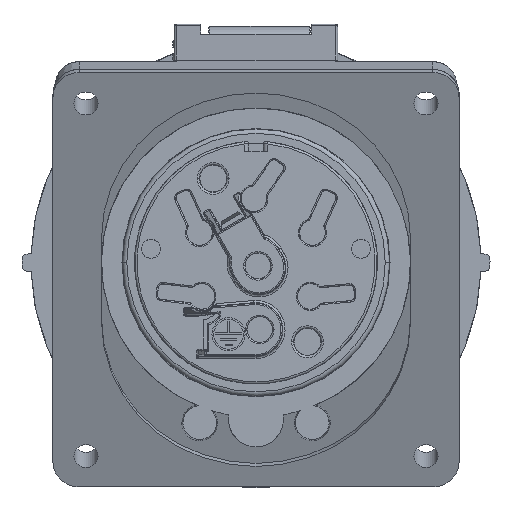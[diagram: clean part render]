
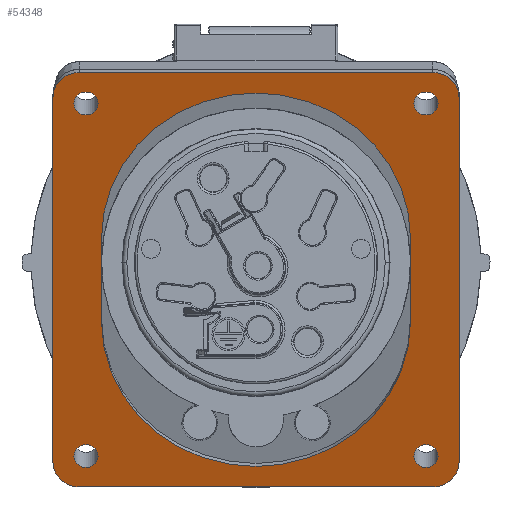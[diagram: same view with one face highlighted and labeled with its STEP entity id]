
A CAD part, front view. The second image highlights one B-rep face of the part: STEP entity #54348.
In plain terms, the highlighted planar face has unit normal (0, -0.94, -0.342).
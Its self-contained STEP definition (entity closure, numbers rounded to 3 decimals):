
#8228=CARTESIAN_POINT('',(-40.,44.315,-45.178));
#8229=DIRECTION('',(0.,0.94,0.342));
#8230=DIRECTION('',(0.,0.342,-0.94));
#8231=AXIS2_PLACEMENT_3D('',#8228,#8229,#8230);
#8236=DIRECTION('',(0.,-0.342,0.94));
#8237=VECTOR('',#8236,87.9);
#8238=CARTESIAN_POINT('',(-46.,44.315,-45.178));
#8239=LINE('6181',#8238,#8237);
#8243=CARTESIAN_POINT('',(-40.,14.252,37.42));
#8244=DIRECTION('',(0.,0.94,0.342));
#8245=DIRECTION('',(-1.,0.,0.));
#8246=AXIS2_PLACEMENT_3D('',#8243,#8244,#8245);
#8251=DIRECTION('',(1.,0.,0.));
#8252=VECTOR('',#8251,80.);
#8253=CARTESIAN_POINT('',(-40.,12.2,43.059));
#8254=LINE('6183',#8253,#8252);
#8258=CARTESIAN_POINT('',(40.,14.252,37.42));
#8259=DIRECTION('',(0.,0.94,0.342));
#8260=DIRECTION('',(0.,-0.342,0.94));
#8261=AXIS2_PLACEMENT_3D('',#8258,#8259,#8260);
#8266=DIRECTION('',(0.,0.342,-0.94));
#8267=VECTOR('',#8266,87.9);
#8268=CARTESIAN_POINT('',(46.,14.252,37.42));
#8269=LINE('6185',#8268,#8267);
#8273=CARTESIAN_POINT('',(40.,44.315,-45.178));
#8274=DIRECTION('',(0.,0.94,0.342));
#8275=DIRECTION('',(1.,0.,0.));
#8276=AXIS2_PLACEMENT_3D('',#8273,#8274,#8275);
#8281=DIRECTION('',(-1.,0.,0.));
#8282=VECTOR('',#8281,80.);
#8283=CARTESIAN_POINT('',(40.,46.367,-50.817));
#8284=LINE('6187',#8283,#8282);
#8288=CARTESIAN_POINT('',(-38.5,43.819,-43.816));
#8289=DIRECTION('',(0.,-0.94,-0.342));
#8290=DIRECTION('',(1.,0.,0.));
#8291=AXIS2_PLACEMENT_3D('',#8288,#8289,#8290);
#8296=CARTESIAN_POINT('',(-38.5,43.819,-43.816));
#8297=DIRECTION('',(0.,-0.94,-0.342));
#8298=DIRECTION('',(-1.,0.,0.));
#8299=AXIS2_PLACEMENT_3D('',#8296,#8297,#8298);
#8304=CARTESIAN_POINT('',(38.5,43.819,-43.816));
#8305=DIRECTION('',(0.,-0.94,-0.342));
#8306=DIRECTION('',(1.,0.,0.));
#8307=AXIS2_PLACEMENT_3D('',#8304,#8305,#8306);
#8312=CARTESIAN_POINT('',(38.5,43.819,-43.816));
#8313=DIRECTION('',(0.,-0.94,-0.342));
#8314=DIRECTION('',(-1.,0.,0.));
#8315=AXIS2_PLACEMENT_3D('',#8312,#8313,#8314);
#8320=CARTESIAN_POINT('',(38.5,14.748,36.058));
#8321=DIRECTION('',(0.,-0.94,-0.342));
#8322=DIRECTION('',(1.,0.,0.));
#8323=AXIS2_PLACEMENT_3D('',#8320,#8321,#8322);
#8328=CARTESIAN_POINT('',(38.5,14.748,36.058));
#8329=DIRECTION('',(0.,-0.94,-0.342));
#8330=DIRECTION('',(-1.,0.,0.));
#8331=AXIS2_PLACEMENT_3D('',#8328,#8329,#8330);
#8336=CARTESIAN_POINT('',(-38.5,14.748,36.058));
#8337=DIRECTION('',(0.,-0.94,-0.342));
#8338=DIRECTION('',(1.,0.,0.));
#8339=AXIS2_PLACEMENT_3D('',#8336,#8337,#8338);
#8344=CARTESIAN_POINT('',(-38.5,14.748,36.058));
#8345=DIRECTION('',(0.,-0.94,-0.342));
#8346=DIRECTION('',(-1.,0.,0.));
#8347=AXIS2_PLACEMENT_3D('',#8344,#8345,#8346);
#8352=CARTESIAN_POINT('',(0.,32.704,-13.276));
#8353=DIRECTION('',(0.,-0.94,-0.342));
#8354=DIRECTION('',(-1.,0.,0.));
#8355=AXIS2_PLACEMENT_3D('',#8352,#8353,#8354);
#8360=DIRECTION('',(0.,-0.342,0.94));
#8361=VECTOR('',#8360,20.);
#8362=CARTESIAN_POINT('',(35.,32.704,-13.276));
#8363=LINE('6189',#8362,#8361);
#8367=CARTESIAN_POINT('',(0.,25.863,5.518));
#8368=DIRECTION('',(0.,-0.94,-0.342));
#8369=DIRECTION('',(1.,0.,0.));
#8370=AXIS2_PLACEMENT_3D('',#8367,#8368,#8369);
#8375=DIRECTION('',(0.,0.342,-0.94));
#8376=VECTOR('',#8375,20.);
#8377=CARTESIAN_POINT('',(-35.,25.863,5.518));
#8378=LINE('6191',#8377,#8376);
#41865=CARTESIAN_POINT('',(-35.75,43.819,-43.816));
#41866=CARTESIAN_POINT('',(-41.25,43.819,-43.816));
#41867=VERTEX_POINT('',#41865);
#41868=VERTEX_POINT('',#41866);
#41869=CARTESIAN_POINT('',(41.25,43.819,-43.816));
#41870=CARTESIAN_POINT('',(35.75,43.819,-43.816));
#41871=VERTEX_POINT('',#41869);
#41872=VERTEX_POINT('',#41870);
#41873=CARTESIAN_POINT('',(41.25,14.748,36.058));
#41874=CARTESIAN_POINT('',(35.75,14.748,36.058));
#41875=VERTEX_POINT('',#41873);
#41876=VERTEX_POINT('',#41874);
#41877=CARTESIAN_POINT('',(-35.75,14.748,36.058));
#41878=CARTESIAN_POINT('',(-41.25,14.748,36.058));
#41879=VERTEX_POINT('',#41877);
#41880=VERTEX_POINT('',#41878);
#41881=CARTESIAN_POINT('',(-40.,46.367,-50.817));
#41882=CARTESIAN_POINT('',(-46.,44.315,-45.178));
#41883=VERTEX_POINT('',#41881);
#41884=VERTEX_POINT('',#41882);
#41885=CARTESIAN_POINT('',(-46.,14.252,37.42));
#41886=VERTEX_POINT('',#41885);
#41887=CARTESIAN_POINT('',(-40.,12.2,43.059));
#41888=VERTEX_POINT('',#41887);
#41889=CARTESIAN_POINT('',(40.,12.2,43.059));
#41890=VERTEX_POINT('',#41889);
#41891=CARTESIAN_POINT('',(46.,14.252,37.42));
#41892=VERTEX_POINT('',#41891);
#41893=CARTESIAN_POINT('',(46.,44.315,-45.178));
#41894=VERTEX_POINT('',#41893);
#41895=CARTESIAN_POINT('',(40.,46.367,-50.817));
#41896=VERTEX_POINT('',#41895);
#41897=CARTESIAN_POINT('',(-35.,32.704,-13.276));
#41898=CARTESIAN_POINT('',(35.,32.704,-13.276));
#41899=VERTEX_POINT('',#41897);
#41900=VERTEX_POINT('',#41898);
#41901=CARTESIAN_POINT('',(35.,25.863,5.518));
#41902=VERTEX_POINT('',#41901);
#41903=CARTESIAN_POINT('',(-35.,25.863,5.518));
#41904=VERTEX_POINT('',#41903);
#54295=CARTESIAN_POINT('',(0.,29.283,-3.879));
#54296=DIRECTION('',(0.,0.94,0.342));
#54297=DIRECTION('',(1.,0.,0.));
#54298=AXIS2_PLACEMENT_3D('',#54295,#54296,#54297);
#54299=PLANE('1891',#54298);
#54300=ORIENTED_EDGE('6180',*,*,#41998,.T.);
#54302=ORIENTED_EDGE('6181',*,*,#54301,.T.);
#54303=ORIENTED_EDGE('6182',*,*,#54251,.T.);
#54304=ORIENTED_EDGE('6183',*,*,#54277,.T.);
#54305=ORIENTED_EDGE('6184',*,*,#54204,.T.);
#54307=ORIENTED_EDGE('6185',*,*,#54306,.T.);
#54309=ORIENTED_EDGE('6186',*,*,#54308,.T.);
#54311=ORIENTED_EDGE('6187',*,*,#54310,.T.);
#54312=EDGE_LOOP('1891',(#54300,#54302,#54303,#54304,#54305,#54307,#54309,
#54311));
#54313=FACE_OUTER_BOUND('1891',#54312,.F.);
#54315=ORIENTED_EDGE('6172',*,*,#54314,.T.);
#54317=ORIENTED_EDGE('6173',*,*,#54316,.T.);
#54318=EDGE_LOOP('1891',(#54315,#54317));
#54319=FACE_BOUND('1891',#54318,.F.);
#54321=ORIENTED_EDGE('6174',*,*,#54320,.T.);
#54323=ORIENTED_EDGE('6175',*,*,#54322,.T.);
#54324=EDGE_LOOP('1891',(#54321,#54323));
#54325=FACE_BOUND('1891',#54324,.F.);
#54327=ORIENTED_EDGE('6176',*,*,#54326,.T.);
#54329=ORIENTED_EDGE('6177',*,*,#54328,.T.);
#54330=EDGE_LOOP('1891',(#54327,#54329));
#54331=FACE_BOUND('1891',#54330,.F.);
#54333=ORIENTED_EDGE('6178',*,*,#54332,.T.);
#54335=ORIENTED_EDGE('6179',*,*,#54334,.T.);
#54336=EDGE_LOOP('1891',(#54333,#54335));
#54337=FACE_BOUND('1891',#54336,.F.);
#54339=ORIENTED_EDGE('6188',*,*,#54338,.T.);
#54341=ORIENTED_EDGE('6189',*,*,#54340,.T.);
#54343=ORIENTED_EDGE('6190',*,*,#54342,.T.);
#54345=ORIENTED_EDGE('6191',*,*,#54344,.T.);
#54346=EDGE_LOOP('1891',(#54339,#54341,#54343,#54345));
#54347=FACE_BOUND('1891',#54346,.F.);
#8232=CIRCLE('6180',#8231,6.);
#8247=CIRCLE('6182',#8246,6.);
#8262=CIRCLE('6184',#8261,6.);
#8277=CIRCLE('6186',#8276,6.);
#8292=CIRCLE('6172',#8291,2.75);
#8300=CIRCLE('6173',#8299,2.75);
#8308=CIRCLE('6174',#8307,2.75);
#8316=CIRCLE('6175',#8315,2.75);
#8324=CIRCLE('6176',#8323,2.75);
#8332=CIRCLE('6177',#8331,2.75);
#8340=CIRCLE('6178',#8339,2.75);
#8348=CIRCLE('6179',#8347,2.75);
#8356=CIRCLE('6188',#8355,35.);
#8371=CIRCLE('6190',#8370,35.);
#41998=EDGE_CURVE('6180',#41883,#41884,#8232,.T.);
#54204=EDGE_CURVE('6184',#41890,#41892,#8262,.T.);
#54251=EDGE_CURVE('6182',#41886,#41888,#8247,.T.);
#54277=EDGE_CURVE('6183',#41888,#41890,#8254,.T.);
#54301=EDGE_CURVE('6181',#41884,#41886,#8239,.T.);
#54306=EDGE_CURVE('6185',#41892,#41894,#8269,.T.);
#54308=EDGE_CURVE('6186',#41894,#41896,#8277,.T.);
#54310=EDGE_CURVE('6187',#41896,#41883,#8284,.T.);
#54314=EDGE_CURVE('6172',#41867,#41868,#8292,.T.);
#54316=EDGE_CURVE('6173',#41868,#41867,#8300,.T.);
#54320=EDGE_CURVE('6174',#41871,#41872,#8308,.T.);
#54322=EDGE_CURVE('6175',#41872,#41871,#8316,.T.);
#54326=EDGE_CURVE('6176',#41875,#41876,#8324,.T.);
#54328=EDGE_CURVE('6177',#41876,#41875,#8332,.T.);
#54332=EDGE_CURVE('6178',#41879,#41880,#8340,.T.);
#54334=EDGE_CURVE('6179',#41880,#41879,#8348,.T.);
#54338=EDGE_CURVE('6188',#41899,#41900,#8356,.T.);
#54340=EDGE_CURVE('6189',#41900,#41902,#8363,.T.);
#54342=EDGE_CURVE('6190',#41902,#41904,#8371,.T.);
#54344=EDGE_CURVE('6191',#41904,#41899,#8378,.T.);
#54348=ADVANCED_FACE('1891',(#54313,#54319,#54325,#54331,#54337,#54347),#54299,
.F.);
